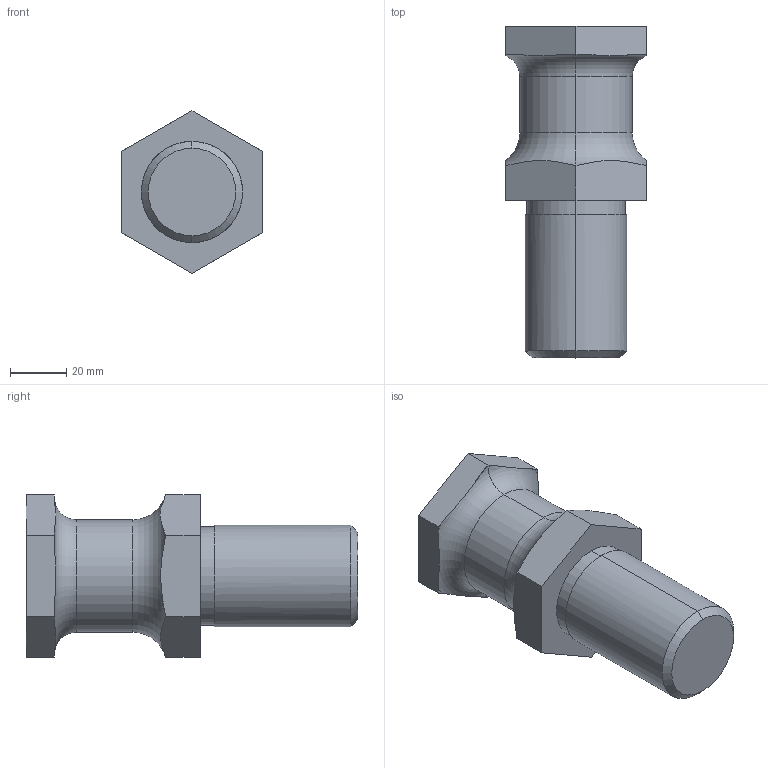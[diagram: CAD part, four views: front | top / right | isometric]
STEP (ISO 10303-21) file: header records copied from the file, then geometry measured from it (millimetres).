
FILE_DESCRIPTION(('CATIA V5 STEP Exchange'),'2;1');
FILE_NAME('C:\Users\Utente\Desktop\3D files 395P\395P-02-040-036.stp','2020-04-09T18:35:37+00:00',('none'),('none'),'CATIA Version 5 Release 20 GA (IN-10)','CATIA V5 STEP AP203','none');
FILE_SCHEMA(('CONFIG_CONTROL_DESIGN'));
Length unit declared in the file: millimetre
Products named in the file (1): _395P-02-040-036
Bounding box: 50 x 118 x 57.73 mm (x, y, z)
Volume: 160007.3 mm3; surface area: 20509.8 mm2
Topology: 1 solids, 1 shells, 34 faces, 100 edges, 70 vertices
Faces by surface type: plane 22, cylinder 6, torus 4, cone 2
Entity records: 1346 total; most frequent: CARTESIAN_POINT 425, ORIENTED_EDGE 200, DIRECTION 148, EDGE_CURVE 100, AXIS2_PLACEMENT_3D 71, VERTEX_POINT 70, VECTOR 44, LINE 44
